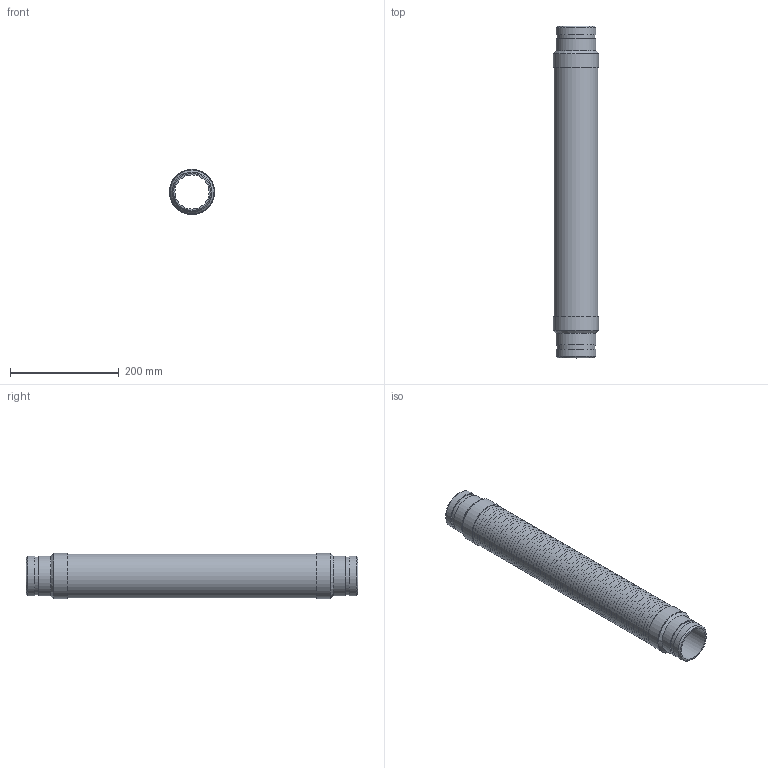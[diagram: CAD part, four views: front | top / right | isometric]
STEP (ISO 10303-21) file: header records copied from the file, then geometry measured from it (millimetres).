
FILE_DESCRIPTION((''),'2;1');
FILE_NAME('C:\2012_Work\Designs\GWN\GWN-2.5x24.stp','2013-08-13T11:51:01',('KShiels'),(''),'Autodesk Inventor 2012','Autodesk Inventor 2012','');
FILE_SCHEMA(('AUTOMOTIVE_DESIGN { 1 0 10303 214 1 1 1 1 }'));
Length unit declared in the file: inch
Products named in the file (6): GWN-2; GWN-2_Welds; A-30110-4_2
Assembly tree (7 placements, depth 2):
  GWN-2
    GWN-2_Welds
    A-30110-4_2
    A-30110-4_2
    A-30110-4_2  x2
    A-30110-4_2  x2
Bounding box: 82.95 x 609.6 x 82.95 mm (x, y, z)
Volume: 301628.3 mm3; surface area: 1032477.1 mm2
Topology: 8 solids, 8 shells, 680 faces, 1032 edges, 690 vertices
Faces by surface type: plane 338, torus 322, cylinder 16, bspline 2, cone 2
Full cylindrical faces by diameter (mm): 62.713 x2, 69.056 x2, 73.025 x6, 79.756 x1, 80.569 x3, 82.95 x2
Entity records: 14019 total; most frequent: DIRECTION 2682, CARTESIAN_POINT 2452, ORIENTED_EDGE 1346, AXIS2_PLACEMENT_3D 1341, EDGE_LOOP 1332, EDGE_CURVE 673, VERTEX_POINT 671, FACE_OUTER_BOUND 667
